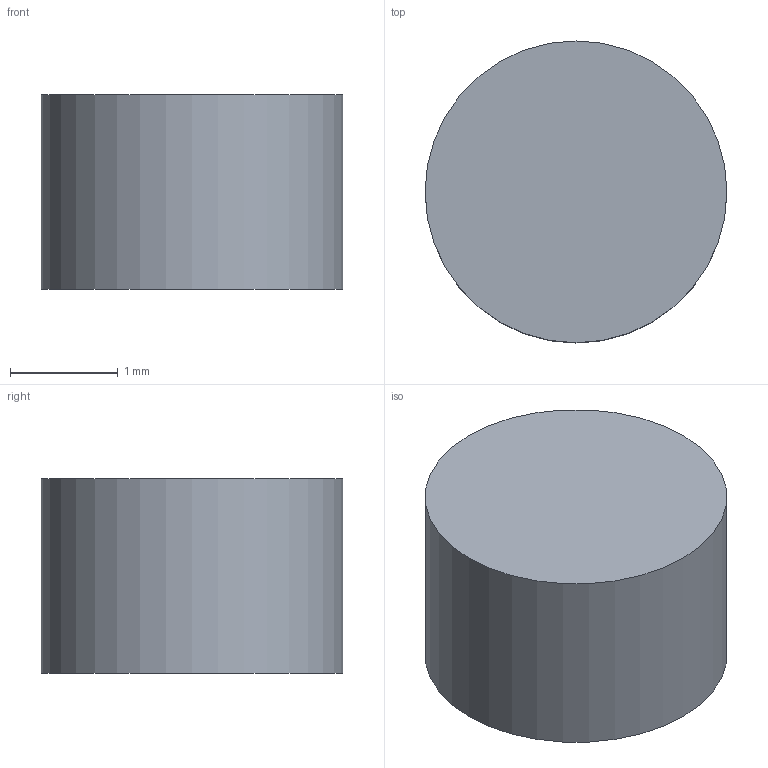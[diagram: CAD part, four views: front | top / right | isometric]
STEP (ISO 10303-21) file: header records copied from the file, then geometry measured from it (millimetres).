
FILE_DESCRIPTION(('Open CASCADE Model'),'2;1');
FILE_NAME('A05_colon_0','2026-11-05T16:12:41',('Author'),('Open CASCADE' ),'Open CASCADE STEP processor 7.9','build123d','Unknown');
FILE_SCHEMA(('AUTOMOTIVE_DESIGN { 1 0 10303 214 1 1 1 1 }'));
Length unit declared in the file: millimetre
Products named in the file (2): A05_colon_0
Assembly tree (1 placements, depth 2):
  A05_colon_0
    A05_colon_0
Bounding box: 2.8 x 2.8 x 1.8 mm (x, y, z)
Volume: 11.1 mm3; surface area: 28.1 mm2
Topology: 1 solids, 1 shells, 3 faces, 3 edges, 2 vertices
Faces by surface type: plane 2, cylinder 1
Full cylindrical faces by diameter (mm): 2.8 x1
Entity records: 150 total; most frequent: DIRECTION 21, CARTESIAN_POINT 16, AXIS2_PLACEMENT_3D 7, ORIENTED_EDGE 6, PCURVE 6, DEFINITIONAL_REPRESENTATION 6, LINE 5, VECTOR 5
